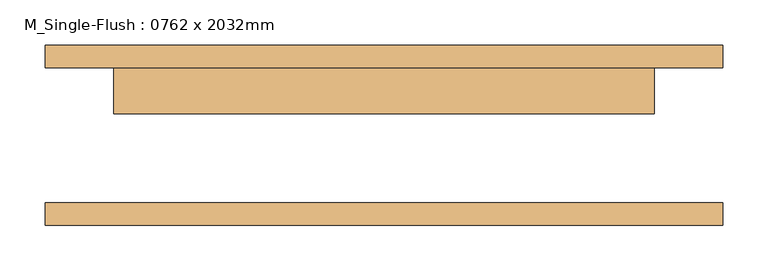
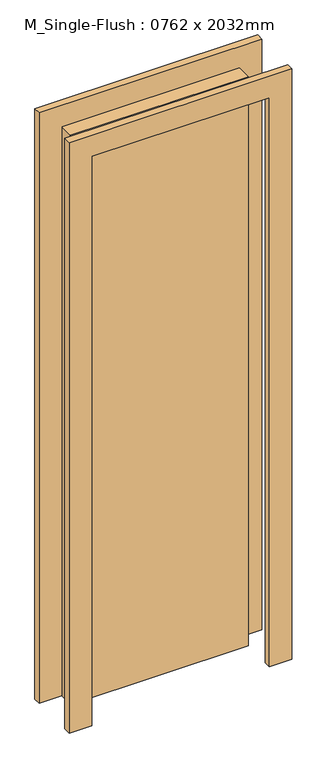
"""IFC4 building model written with IfcOpenShell, lengths in millimetres: door geometry, M_Single-Flush : 0762 x 2032mm."""

from ifc_helpers import new_model, si_unit, frame, origin, origin_with_axes, place, context, project, spatial, polyline, outline, extrude, source, transform, mapped, element, save


def m_single_flush_0762_x_2032mm_f712f77f(model_context):
    return source(origin(), model_context, "Body", "SweptSolid", [
        extrude(outline(polyline([(2108.0, -376.0), (0.0, -376.0), (0.0, -300.0), (2032.0, -300.0), (2032.0, 300.0), (0.0, 300.0), (0.0, 376.0), (2108.0, 376.0), (2108.0, -376.0)])), frame((0.0, 75.0, 0.0), z_axis=(0.0, 1.0, 0.0), x_axis=(0.0, 0.0, 1.0)), (0.0, 0.0, 1.0), 25.0),
        extrude(outline(polyline([(2108.0, 376.0), (2108.0, -376.0), (0.0, -376.0), (0.0, -300.0), (2032.0, -300.0), (2032.0, 300.0), (0.0, 300.0), (0.0, 376.0), (2108.0, 376.0)])), frame((0.0, -100.0, 0.0), z_axis=(0.0, 1.0, 0.0), x_axis=(0.0, 0.0, 1.0)), (0.0, 0.0, 1.0), 25.0),
        extrude(outline(polyline([(300.0, 24.0), (-300.0, 24.0), (-300.0, 75.0), (300.0, 75.0), (300.0, 24.0)])), origin_with_axes(), (0.0, 0.0, 1.0), 2032.0),
    ])


if __name__ == "__main__":
    model = new_model("IFC4")
    model_context = context("Model", 3, world=origin())
    ifc_project = project(units=[si_unit("LENGTHUNIT", "METRE", prefix="MILLI")], contexts=[model_context])
    site = spatial("IfcSite", under=ifc_project)
    building = spatial("IfcBuilding", under=site)
    placement = place(None, origin())
    m_single_flush_0762_x_2032mm_shape = m_single_flush_0762_x_2032mm_f712f77f(model_context)
    element("IfcDoor", 1, ObjectType="M_Single-Flush : 0762 x 2032mm", at=placement, inside=building, context=model_context, shape_type="MappedRepresentation", body=[
        mapped(m_single_flush_0762_x_2032mm_shape, transform((0.0, 0.0, 0.0), x_axis=(1.0, 0.0, 0.0), y_axis=(0.0, 1.0, 0.0), z_axis=(0.0, 0.0, 1.0))),
    ])
    save(model, "model.ifc")
